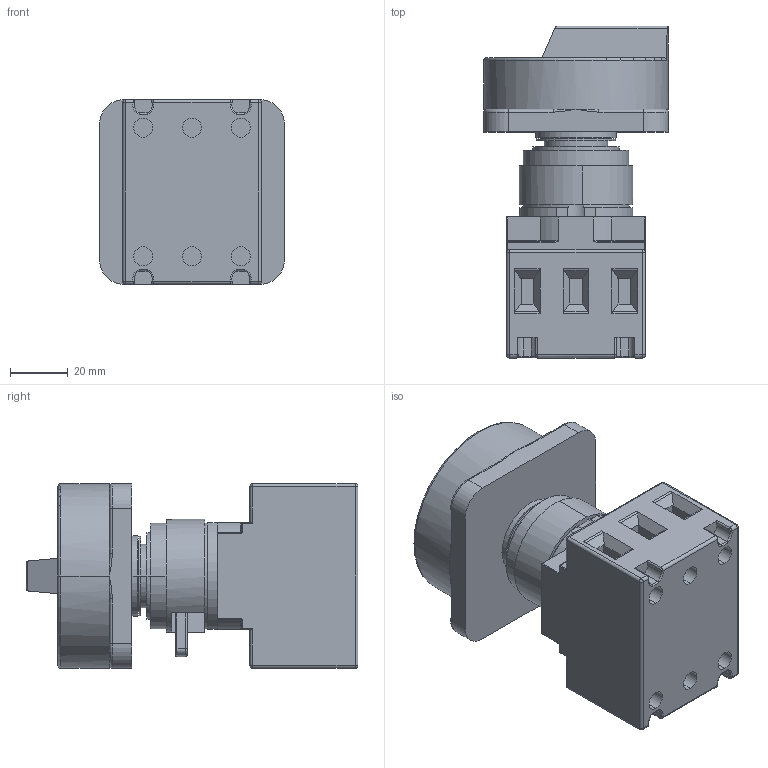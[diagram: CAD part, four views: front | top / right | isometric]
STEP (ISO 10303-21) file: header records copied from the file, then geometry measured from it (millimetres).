
FILE_DESCRIPTION (( 'STEP AP203' ), '1' );
FILE_NAME ('LTS20_25_32_40 ZH4 A3.STEP', '2014-04-23T10:35:08', ( '' ), ( '' ), 'SwSTEP 2.0', 'SolidWorks 2014', '' );
FILE_SCHEMA (( 'CONFIG_CONTROL_DESIGN' ));
Length unit declared in the file: millimetre
Products named in the file (8): F黨rungsh黮se vormontiert; Zwischenring; SV4_64x64; Achse LTSZ; LTS20_25_32_40 ZH4 A3; Kuppelstück; Riegel; Schalterkörper LTS20_40 E
Assembly tree (7 placements, depth 2):
  LTS20_25_32_40 ZH4 A3
    Schalterkörper LTS20_40 E
    Zwischenring
    Achse LTSZ
    Kuppelstück
    Riegel
    F黨rungsh黮se vormontiert
    SV4_64x64
Bounding box: 64 x 115 x 64 mm (x, y, z)
Volume: 223909.1 mm3; surface area: 55230.4 mm2
Topology: 7 solids, 7 shells, 401 faces, 978 edges, 598 vertices
Faces by surface type: cylinder 177, plane 154, torus 31, bspline 26, sphere 13
Entity records: 13403 total; most frequent: CARTESIAN_POINT 3294, DIRECTION 1991, ORIENTED_EDGE 1914, EDGE_CURVE 957, AXIS2_PLACEMENT_3D 753, VERTEX_POINT 598, LINE 485, VECTOR 485
